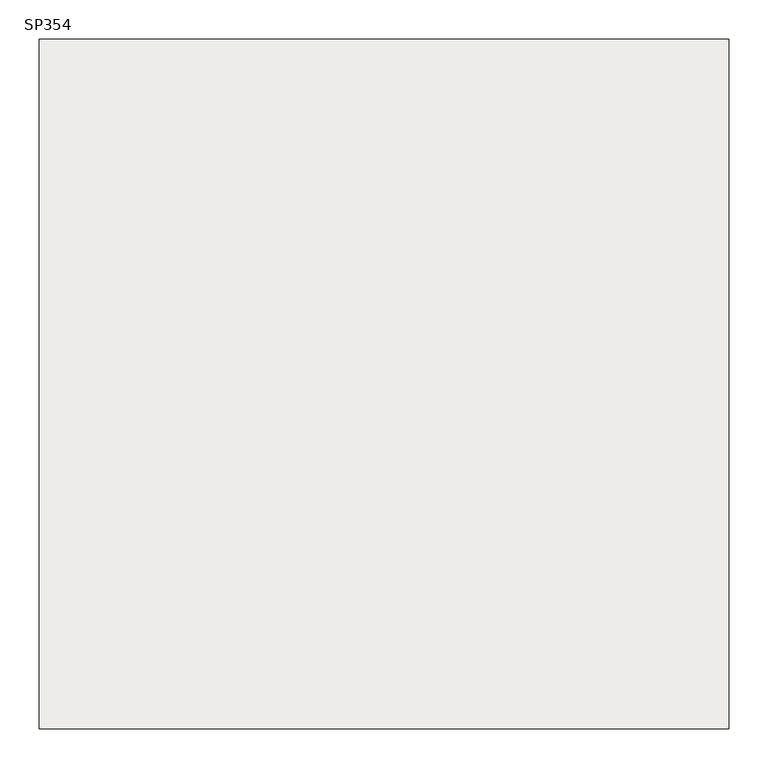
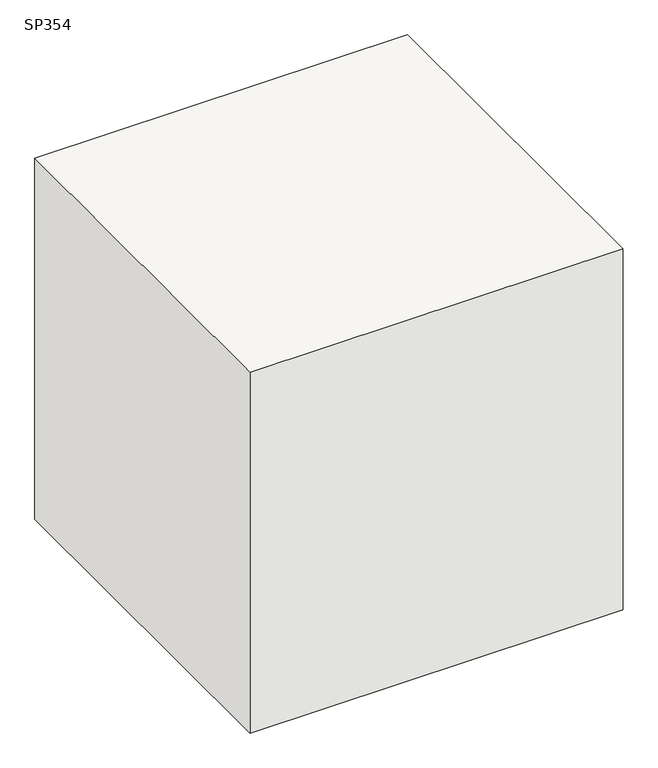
"""IFC4 building model written with IfcOpenShell, lengths in millimetres: slab geometry, 柱形_SP : SP354."""

import ifcopenshell
import ifcopenshell.guid

model = None  # the IFC model being written
_history = None  # IfcOwnerHistory: only IFC2X3 demands one
_inside = {}  # id of a spatial element -> (the spatial element, [elements in it])
_under = {}  # id of a project, library or spatial element -> (it, [spatial elements below it])
_declared = {}  # id of a project -> (the project, [libraries it declares])
_typed = {}  # id of a type object -> (the type object, [elements of that type])
_made_of = {}  # id of a material, layer set ... -> (it, [elements and type objects made of it])


def new_model(schema):
    """Start an empty IFC model of exactly this schema.

    Asked for "IFC4X3", IfcOpenShell would pick the latest addendum, in which some entities
    have other attributes; the version numbers below select the first issue.
    IFC2X3 requires an IfcOwnerHistory on every rooted entity: one is made here for all.
    """
    global model, _history
    if schema == "IFC4X3":
        model = ifcopenshell.file(schema_version=(4, 3, 0, 0))
    else:
        model = ifcopenshell.file(schema=schema)
    _inside.clear()
    _under.clear()
    _declared.clear()
    _typed.clear()
    _made_of.clear()
    _history = None
    if model.schema == "IFC2X3":
        org = make("IfcOrganization", Name="unknown")
        user = make(
            "IfcPersonAndOrganization",
            ThePerson=make("IfcPerson", FamilyName="unknown"),
            TheOrganization=org,
        )
        app = make(
            "IfcApplication",
            ApplicationDeveloper=org,
            Version="unknown",
            ApplicationFullName="unknown",
            ApplicationIdentifier="unknown",
        )
        _history = make(
            "IfcOwnerHistory",
            OwningUser=user,
            OwningApplication=app,
            ChangeAction="ADDED",
            CreationDate=0,
        )
    return model


def make(cls, **values):
    """One entity of the class cls with the attributes given. An attribute that is None is left unset."""
    return model.create_entity(
        cls, **{name: value for name, value in values.items() if value is not None}
    )


def rooted(cls, **values):
    """An entity with a GlobalId (a new one), such as an element, a storey or a relation."""
    return make(cls, GlobalId=ifcopenshell.guid.new(), OwnerHistory=_history, **values)


def si_unit(unit_type, name, prefix=None):
    """IfcSIUnit, for example si_unit("LENGTHUNIT", "METRE", prefix="MILLI")."""
    return make("IfcSIUnit", UnitType=unit_type, Prefix=prefix, Name=name)


def assignment(units):
    """IfcUnitAssignment: the units of a project."""
    return None if units is None else make("IfcUnitAssignment", Units=units)


def point(xyz):
    """IfcCartesianPoint."""
    return None if xyz is None else make("IfcCartesianPoint", Coordinates=xyz)


def direction(xyz):
    """IfcDirection."""
    return None if xyz is None else make("IfcDirection", DirectionRatios=xyz)


def frame(location, z_axis=None, x_axis=None):
    """IfcAxis2Placement3D, a coordinate frame: its origin and axes. An axis left out is left unset."""
    return make(
        "IfcAxis2Placement3D",
        Location=point(location),
        Axis=direction(z_axis),
        RefDirection=direction(x_axis),
    )


def origin():
    """The frame at (0, 0, 0) with its axes left unset."""
    return frame((0.0, 0.0, 0.0))


def place(relative_to, where):
    """IfcLocalPlacement: puts the frame where relative to a parent placement (None: the world)."""
    return make(
        "IfcLocalPlacement", PlacementRelTo=relative_to, RelativePlacement=where
    )


def context(
    kind, dimensions, precision=None, world=None, true_north=None, identifier=None
):
    """IfcGeometricRepresentationContext, for example the 3D "Model" context."""
    return make(
        "IfcGeometricRepresentationContext",
        ContextIdentifier=identifier,
        ContextType=kind,
        CoordinateSpaceDimension=dimensions,
        Precision=precision,
        WorldCoordinateSystem=world,
        TrueNorth=true_north,
    )


def project(units=None, contexts=None):
    """IfcProject with its units and contexts."""
    return rooted(
        "IfcProject",
        Name="project",
        RepresentationContexts=contexts,
        UnitsInContext=assignment(units),
    )


def spatial(cls, under=None, at=None, **own):
    """A site, building, storey or space (cls), placed at a placement, below another one or the project."""
    s = rooted(cls, ObjectPlacement=at, **own)
    if under is not None:
        _under.setdefault(under.id(), (under, []))[1].append(s)
    return s


def polyline(points):
    """IfcPolyline through the points."""
    return make("IfcPolyline", Points=[point(p) for p in points])


def outline(outer, holes=None, kind="AREA"):
    """IfcArbitraryClosedProfileDef: a profile drawn as a closed curve; with holes, ...WithVoids."""
    if holes is None:
        return make("IfcArbitraryClosedProfileDef", ProfileType=kind, OuterCurve=outer)
    return make(
        "IfcArbitraryProfileDefWithVoids",
        ProfileType=kind,
        OuterCurve=outer,
        InnerCurves=holes,
    )


def extrude(swept, where, along, depth):
    """IfcExtrudedAreaSolid: the profile swept, set in the frame where, extruded along a direction by depth."""
    return make(
        "IfcExtrudedAreaSolid",
        SweptArea=swept,
        Position=where,
        ExtrudedDirection=direction(along),
        Depth=depth,
    )


def shape(context_of_items, identifier, shape_type, items):
    """IfcShapeRepresentation: the items that make up one representation, for example the "Body"."""
    return make(
        "IfcShapeRepresentation",
        ContextOfItems=context_of_items,
        RepresentationIdentifier=identifier,
        RepresentationType=shape_type,
        Items=items,
    )


def source(mapping_origin, context_of_items, identifier, shape_type, items):
    """IfcRepresentationMap: a shape defined once, which mapped items show again and again."""
    return make(
        "IfcRepresentationMap",
        MappingOrigin=mapping_origin,
        MappedRepresentation=shape(context_of_items, identifier, shape_type, items),
    )


def transform(
    local_origin,
    x_axis=None,
    y_axis=None,
    z_axis=None,
    scale=None,
    scale2=None,
    scale3=None,
    uniform=True,
):
    """IfcCartesianTransformationOperator3D, or its non-uniform kind. x_axis, y_axis, z_axis: its Axis1, 2, 3."""
    if uniform:
        return make(
            "IfcCartesianTransformationOperator3D",
            Axis1=direction(x_axis),
            Axis2=direction(y_axis),
            LocalOrigin=point(local_origin),
            Scale=scale,
            Axis3=direction(z_axis),
        )
    return make(
        "IfcCartesianTransformationOperator3DnonUniform",
        Axis1=direction(x_axis),
        Axis2=direction(y_axis),
        LocalOrigin=point(local_origin),
        Scale=scale,
        Axis3=direction(z_axis),
        Scale2=scale2,
        Scale3=scale3,
    )


def mapped(mapping_source, mapping_target):
    """IfcMappedItem: shows the shape of a source again, moved by a transform."""
    return make(
        "IfcMappedItem", MappingSource=mapping_source, MappingTarget=mapping_target
    )


def made_of(thing, what):
    """Note that an element or type object is made of a material, layer set ...; save() writes the relation."""
    if what is not None:
        _made_of.setdefault(what.id(), (what, []))[1].append(thing)
    return thing


def element(
    cls,
    number,
    at=None,
    inside=None,
    cuts=None,
    type_object=None,
    material=None,
    context=None,
    identifier="Body",
    shape_type=None,
    held_by="IfcProductDefinitionShape",
    body=None,
    shapes=None,
    **own,
):
    """One element of the class cls, such as IfcWall. Its Tag is "e" and its number.

    at: its placement. inside: the storey or other place that contains it. cuts: it is an
    opening in that element (IfcRelVoidsElement). A single representation is given by context,
    identifier, shape_type and body (its items); several are given by shapes. held_by: the class
    of the entity that holds the representations. save() writes the other relations.
    """
    e = rooted(cls, Tag="e%d" % number, ObjectPlacement=at, **own)
    if body is not None:
        shapes = [shape(context, identifier, shape_type, body)]
    if shapes is not None:
        e.Representation = make(held_by, Representations=shapes)
    if inside is not None:
        _inside.setdefault(inside.id(), (inside, []))[1].append(e)
    if cuts is not None:
        rooted(
            "IfcRelVoidsElement", RelatingBuildingElement=cuts, RelatedOpeningElement=e
        )
    if type_object is not None:
        _typed.setdefault(type_object.id(), (type_object, []))[1].append(e)
    return made_of(e, material)


def aggregate(whole, parts):
    """IfcRelAggregates: a whole, such as a stair, and the parts it consists of."""
    return rooted("IfcRelAggregates", RelatingObject=whole, RelatedObjects=parts)


def save(model, path):
    """Write the relations noted so far, then the file.

    IfcRelAggregates (storeys below a building ...), IfcRelContainedInSpatialStructure (elements
    in a storey), IfcRelDefinesByType, IfcRelAssociatesMaterial and IfcRelDeclares: one each for
    every whole, place, type object, material and project.
    """
    for whole, parts in _under.values():
        aggregate(whole, parts)
    for where, things in _inside.values():
        rooted(
            "IfcRelContainedInSpatialStructure",
            RelatedElements=things,
            RelatingStructure=where,
        )
    for kind, things in _typed.values():
        rooted("IfcRelDefinesByType", RelatedObjects=things, RelatingType=kind)
    for what, things in _made_of.values():
        rooted("IfcRelAssociatesMaterial", RelatedObjects=things, RelatingMaterial=what)
    for by, libraries in _declared.values():
        rooted("IfcRelDeclares", RelatingContext=by, RelatedDefinitions=libraries)
    model.write(path)


def sp354_4fb15817(model_context):
    return source(origin(), model_context, "Body", "SweptSolid", [
        extrude(outline(polyline([(440.0, 440.0), (440.0, -440.0), (-440.0, -440.0), (-440.0, 440.0), (440.0, 440.0)])), frame((0.0, 0.0, -900.0), z_axis=(0.0, 0.0, 1.0), x_axis=(1.0, 0.0, 0.0)), (0.0, 0.0, 1.0), 900.0),
    ])


if __name__ == "__main__":
    model = new_model("IFC4")
    model_context = context("Model", 3, world=origin())
    ifc_project = project(units=[si_unit("LENGTHUNIT", "METRE", prefix="MILLI")], contexts=[model_context])
    site = spatial("IfcSite", under=ifc_project)
    building = spatial("IfcBuilding", under=site)
    placement = place(None, origin())
    sp354_shape = sp354_4fb15817(model_context)
    element("IfcSlab", 1, ObjectType="柱形_SP : SP354", at=placement, inside=building, context=model_context, shape_type="MappedRepresentation", body=[
        mapped(sp354_shape, transform((0.0, 0.0, 0.0), x_axis=(1.0, 0.0, 0.0), y_axis=(0.0, 1.0, 0.0), z_axis=(0.0, 0.0, 1.0))),
    ])
    save(model, "model.ifc")
